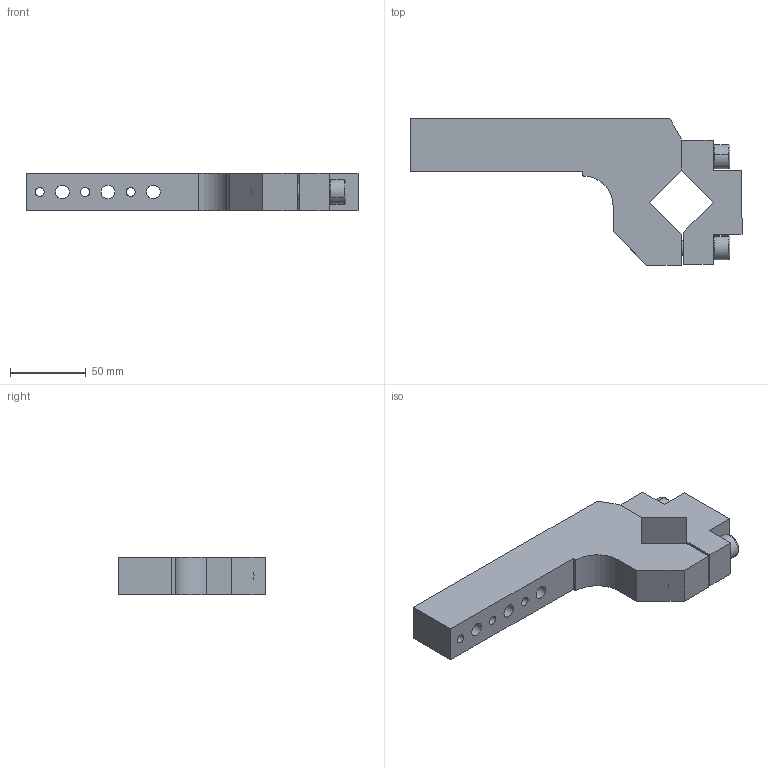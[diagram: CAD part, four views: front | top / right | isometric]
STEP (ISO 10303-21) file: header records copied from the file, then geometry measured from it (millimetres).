
FILE_DESCRIPTION((''),'2;1');
FILE_NAME('S:\Matthew\Step Files\XM Clamp Arms\XJ80-01.stp','2006-06-28T08:19:33',('Matthew'),(''),'Autodesk Inventor 8','Autodesk Inventor 8','');
FILE_SCHEMA(('AUTOMOTIVE_DESIGN { 1 0 10303 214 1 1 1 1 }'));
Length unit declared in the file: millimetre
Products named in the file (1): XJ80-01
Bounding box: 219 x 96.5 x 25 mm (x, y, z)
Volume: 254831.5 mm3; surface area: 49204.9 mm2
Topology: 1 solids, 3 shells, 223 faces, 697 edges, 456 vertices
Faces by surface type: plane 148, cylinder 33, bspline 30, cone 12
Entity records: 8311 total; most frequent: CARTESIAN_POINT 1998, ORIENTED_EDGE 1378, DIRECTION 1283, EDGE_CURVE 689, VERTEX_POINT 456, AXIS2_PLACEMENT_3D 448, VECTOR 387, LINE 387
